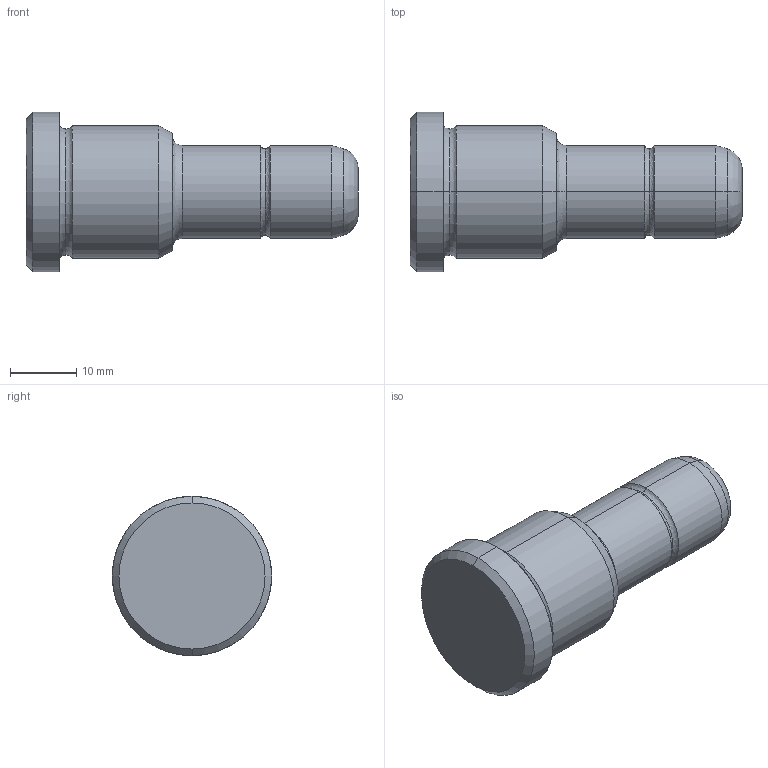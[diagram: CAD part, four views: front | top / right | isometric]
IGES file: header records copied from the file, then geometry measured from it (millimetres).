
Start section: START RECORD GO HERE.
Global section: file name: 351-14X22X50.igs; native system: DASSAULT SYSTEMES CATIA V5 R20 - www.3ds.com; preprocessor: CATIA Version 5 Release 20 ; author: Utente; organization: NB04-ASUS; date: 20210818.120113; units: millimetre
Bounding box: 50 x 24 x 24 mm (x, y, z)
Surface area: 3402.9 mm2 (no closed solid volume)
Topology: 0 solids, 0 shells, 30 faces, 172 edges, 172 vertices
Faces by surface type: revolution 26, plane 4
